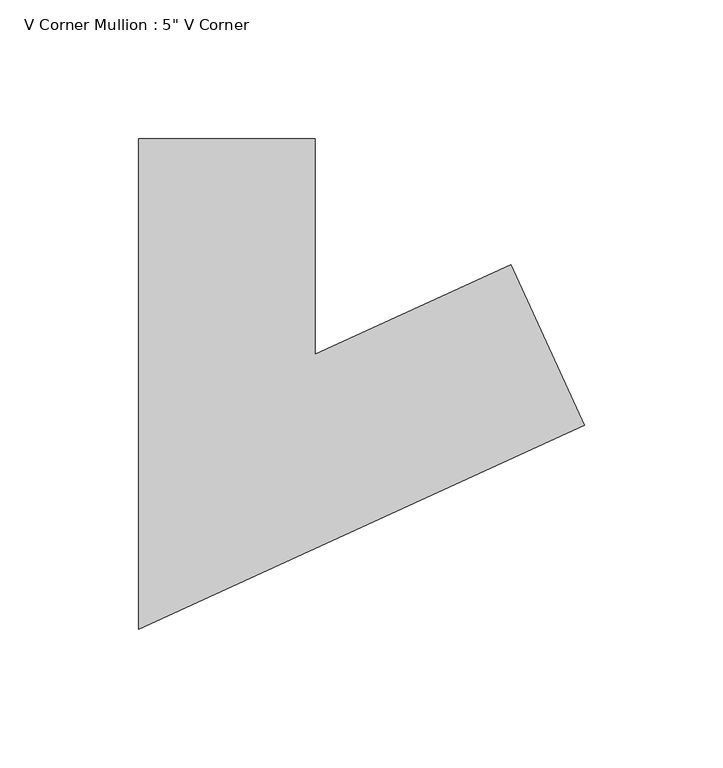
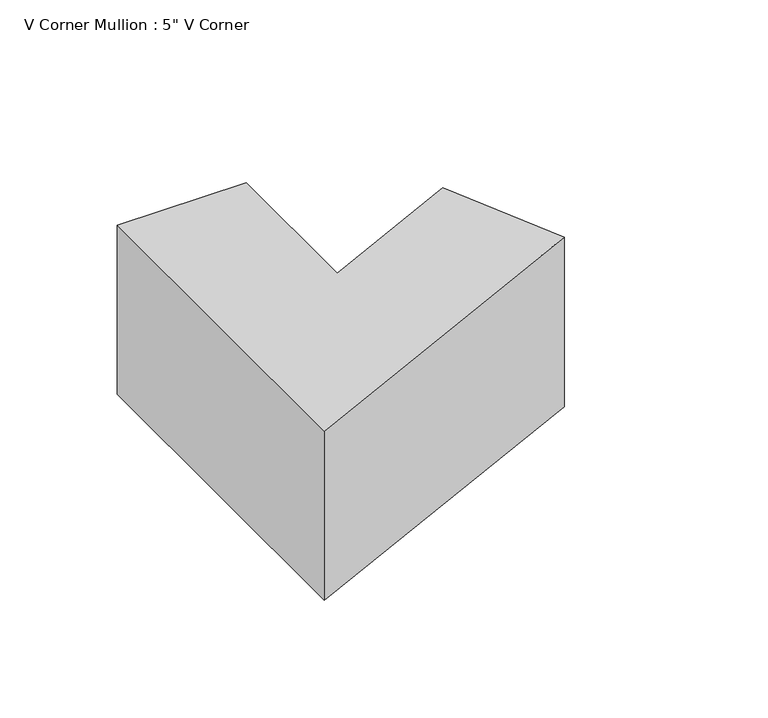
"""IFC4 building model written with IfcOpenShell, lengths in millimetres: member geometry."""

import ifcopenshell
import ifcopenshell.guid

model = None  # the IFC model being written
_history = None  # IfcOwnerHistory: only IFC2X3 demands one
_inside = {}  # id of a spatial element -> (the spatial element, [elements in it])
_under = {}  # id of a project, library or spatial element -> (it, [spatial elements below it])
_declared = {}  # id of a project -> (the project, [libraries it declares])
_typed = {}  # id of a type object -> (the type object, [elements of that type])
_made_of = {}  # id of a material, layer set ... -> (it, [elements and type objects made of it])


def new_model(schema):
    """Start an empty IFC model of exactly this schema.

    Asked for "IFC4X3", IfcOpenShell would pick the latest addendum, in which some entities
    have other attributes; the version numbers below select the first issue.
    IFC2X3 requires an IfcOwnerHistory on every rooted entity: one is made here for all.
    """
    global model, _history
    if schema == "IFC4X3":
        model = ifcopenshell.file(schema_version=(4, 3, 0, 0))
    else:
        model = ifcopenshell.file(schema=schema)
    _inside.clear()
    _under.clear()
    _declared.clear()
    _typed.clear()
    _made_of.clear()
    _history = None
    if model.schema == "IFC2X3":
        org = make("IfcOrganization", Name="unknown")
        user = make(
            "IfcPersonAndOrganization",
            ThePerson=make("IfcPerson", FamilyName="unknown"),
            TheOrganization=org,
        )
        app = make(
            "IfcApplication",
            ApplicationDeveloper=org,
            Version="unknown",
            ApplicationFullName="unknown",
            ApplicationIdentifier="unknown",
        )
        _history = make(
            "IfcOwnerHistory",
            OwningUser=user,
            OwningApplication=app,
            ChangeAction="ADDED",
            CreationDate=0,
        )
    return model


def make(cls, **values):
    """One entity of the class cls with the attributes given. An attribute that is None is left unset."""
    return model.create_entity(
        cls, **{name: value for name, value in values.items() if value is not None}
    )


def rooted(cls, **values):
    """An entity with a GlobalId (a new one), such as an element, a storey or a relation."""
    return make(cls, GlobalId=ifcopenshell.guid.new(), OwnerHistory=_history, **values)


def si_unit(unit_type, name, prefix=None):
    """IfcSIUnit, for example si_unit("LENGTHUNIT", "METRE", prefix="MILLI")."""
    return make("IfcSIUnit", UnitType=unit_type, Prefix=prefix, Name=name)


def assignment(units):
    """IfcUnitAssignment: the units of a project."""
    return None if units is None else make("IfcUnitAssignment", Units=units)


def point(xyz):
    """IfcCartesianPoint."""
    return None if xyz is None else make("IfcCartesianPoint", Coordinates=xyz)


def direction(xyz):
    """IfcDirection."""
    return None if xyz is None else make("IfcDirection", DirectionRatios=xyz)


def frame(location, z_axis=None, x_axis=None):
    """IfcAxis2Placement3D, a coordinate frame: its origin and axes. An axis left out is left unset."""
    return make(
        "IfcAxis2Placement3D",
        Location=point(location),
        Axis=direction(z_axis),
        RefDirection=direction(x_axis),
    )


def origin():
    """The frame at (0, 0, 0) with its axes left unset."""
    return frame((0.0, 0.0, 0.0))


def place(relative_to, where):
    """IfcLocalPlacement: puts the frame where relative to a parent placement (None: the world)."""
    return make(
        "IfcLocalPlacement", PlacementRelTo=relative_to, RelativePlacement=where
    )


def context(
    kind, dimensions, precision=None, world=None, true_north=None, identifier=None
):
    """IfcGeometricRepresentationContext, for example the 3D "Model" context."""
    return make(
        "IfcGeometricRepresentationContext",
        ContextIdentifier=identifier,
        ContextType=kind,
        CoordinateSpaceDimension=dimensions,
        Precision=precision,
        WorldCoordinateSystem=world,
        TrueNorth=true_north,
    )


def project(units=None, contexts=None):
    """IfcProject with its units and contexts."""
    return rooted(
        "IfcProject",
        Name="project",
        RepresentationContexts=contexts,
        UnitsInContext=assignment(units),
    )


def spatial(cls, under=None, at=None, **own):
    """A site, building, storey or space (cls), placed at a placement, below another one or the project."""
    s = rooted(cls, ObjectPlacement=at, **own)
    if under is not None:
        _under.setdefault(under.id(), (under, []))[1].append(s)
    return s


def polyline(points):
    """IfcPolyline through the points."""
    return make("IfcPolyline", Points=[point(p) for p in points])


def outline(outer, holes=None, kind="AREA"):
    """IfcArbitraryClosedProfileDef: a profile drawn as a closed curve; with holes, ...WithVoids."""
    if holes is None:
        return make("IfcArbitraryClosedProfileDef", ProfileType=kind, OuterCurve=outer)
    return make(
        "IfcArbitraryProfileDefWithVoids",
        ProfileType=kind,
        OuterCurve=outer,
        InnerCurves=holes,
    )


def extrude(swept, where, along, depth):
    """IfcExtrudedAreaSolid: the profile swept, set in the frame where, extruded along a direction by depth."""
    return make(
        "IfcExtrudedAreaSolid",
        SweptArea=swept,
        Position=where,
        ExtrudedDirection=direction(along),
        Depth=depth,
    )


def shape(context_of_items, identifier, shape_type, items):
    """IfcShapeRepresentation: the items that make up one representation, for example the "Body"."""
    return make(
        "IfcShapeRepresentation",
        ContextOfItems=context_of_items,
        RepresentationIdentifier=identifier,
        RepresentationType=shape_type,
        Items=items,
    )


def source(mapping_origin, context_of_items, identifier, shape_type, items):
    """IfcRepresentationMap: a shape defined once, which mapped items show again and again."""
    return make(
        "IfcRepresentationMap",
        MappingOrigin=mapping_origin,
        MappedRepresentation=shape(context_of_items, identifier, shape_type, items),
    )


def transform(
    local_origin,
    x_axis=None,
    y_axis=None,
    z_axis=None,
    scale=None,
    scale2=None,
    scale3=None,
    uniform=True,
):
    """IfcCartesianTransformationOperator3D, or its non-uniform kind. x_axis, y_axis, z_axis: its Axis1, 2, 3."""
    if uniform:
        return make(
            "IfcCartesianTransformationOperator3D",
            Axis1=direction(x_axis),
            Axis2=direction(y_axis),
            LocalOrigin=point(local_origin),
            Scale=scale,
            Axis3=direction(z_axis),
        )
    return make(
        "IfcCartesianTransformationOperator3DnonUniform",
        Axis1=direction(x_axis),
        Axis2=direction(y_axis),
        LocalOrigin=point(local_origin),
        Scale=scale,
        Axis3=direction(z_axis),
        Scale2=scale2,
        Scale3=scale3,
    )


def mapped(mapping_source, mapping_target):
    """IfcMappedItem: shows the shape of a source again, moved by a transform."""
    return make(
        "IfcMappedItem", MappingSource=mapping_source, MappingTarget=mapping_target
    )


def made_of(thing, what):
    """Note that an element or type object is made of a material, layer set ...; save() writes the relation."""
    if what is not None:
        _made_of.setdefault(what.id(), (what, []))[1].append(thing)
    return thing


def element(
    cls,
    number,
    at=None,
    inside=None,
    cuts=None,
    type_object=None,
    material=None,
    context=None,
    identifier="Body",
    shape_type=None,
    held_by="IfcProductDefinitionShape",
    body=None,
    shapes=None,
    **own,
):
    """One element of the class cls, such as IfcWall. Its Tag is "e" and its number.

    at: its placement. inside: the storey or other place that contains it. cuts: it is an
    opening in that element (IfcRelVoidsElement). A single representation is given by context,
    identifier, shape_type and body (its items); several are given by shapes. held_by: the class
    of the entity that holds the representations. save() writes the other relations.
    """
    e = rooted(cls, Tag="e%d" % number, ObjectPlacement=at, **own)
    if body is not None:
        shapes = [shape(context, identifier, shape_type, body)]
    if shapes is not None:
        e.Representation = make(held_by, Representations=shapes)
    if inside is not None:
        _inside.setdefault(inside.id(), (inside, []))[1].append(e)
    if cuts is not None:
        rooted(
            "IfcRelVoidsElement", RelatingBuildingElement=cuts, RelatedOpeningElement=e
        )
    if type_object is not None:
        _typed.setdefault(type_object.id(), (type_object, []))[1].append(e)
    return made_of(e, material)


def aggregate(whole, parts):
    """IfcRelAggregates: a whole, such as a stair, and the parts it consists of."""
    return rooted("IfcRelAggregates", RelatingObject=whole, RelatedObjects=parts)


def save(model, path):
    """Write the relations noted so far, then the file.

    IfcRelAggregates (storeys below a building ...), IfcRelContainedInSpatialStructure (elements
    in a storey), IfcRelDefinesByType, IfcRelAssociatesMaterial and IfcRelDeclares: one each for
    every whole, place, type object, material and project.
    """
    for whole, parts in _under.values():
        aggregate(whole, parts)
    for where, things in _inside.values():
        rooted(
            "IfcRelContainedInSpatialStructure",
            RelatedElements=things,
            RelatingStructure=where,
        )
    for kind, things in _typed.values():
        rooted("IfcRelDefinesByType", RelatedObjects=things, RelatingType=kind)
    for what, things in _made_of.values():
        rooted("IfcRelAssociatesMaterial", RelatedObjects=things, RelatingMaterial=what)
    for by, libraries in _declared.values():
        rooted("IfcRelDeclares", RelatingContext=by, RelatedDefinitions=libraries)
    model.write(path)


def member_e2c2cf32(model_context):
    return source(origin(), model_context, "Body", "SweptSolid", [
        extrude(outline(polyline([(87.9205542, -39.5195451), (-72.5228811, -112.9476953), (-72.5228811, 63.5), (-9.0228811, 63.5), (-9.0228811, -14.0523047), (61.49523, 18.2208415), (87.9205542, -39.5195451)])), frame((0.0, 0.0, -87.9291819), z_axis=(0.0, 0.0, 1.0), x_axis=(1.0, 0.0, 0.0)), (0.0, 0.0, 1.0), 87.9291819),
    ])


if __name__ == "__main__":
    model = new_model("IFC4")
    model_context = context("Model", 3, world=origin())
    ifc_project = project(units=[si_unit("LENGTHUNIT", "METRE", prefix="MILLI")], contexts=[model_context])
    site = spatial("IfcSite", under=ifc_project)
    building = spatial("IfcBuilding", under=site)
    placement = place(None, origin())
    member_shape = member_e2c2cf32(model_context)
    element("IfcMember", 1, ObjectType="V Corner Mullion : 5\" V Corner", at=placement, inside=building, context=model_context, shape_type="MappedRepresentation", body=[
        mapped(member_shape, transform((0.0, 0.0, 0.0), x_axis=(1.0, 0.0, 0.0), y_axis=(0.0, 1.0, 0.0), z_axis=(0.0, 0.0, 1.0))),
    ])
    save(model, "model.ifc")
